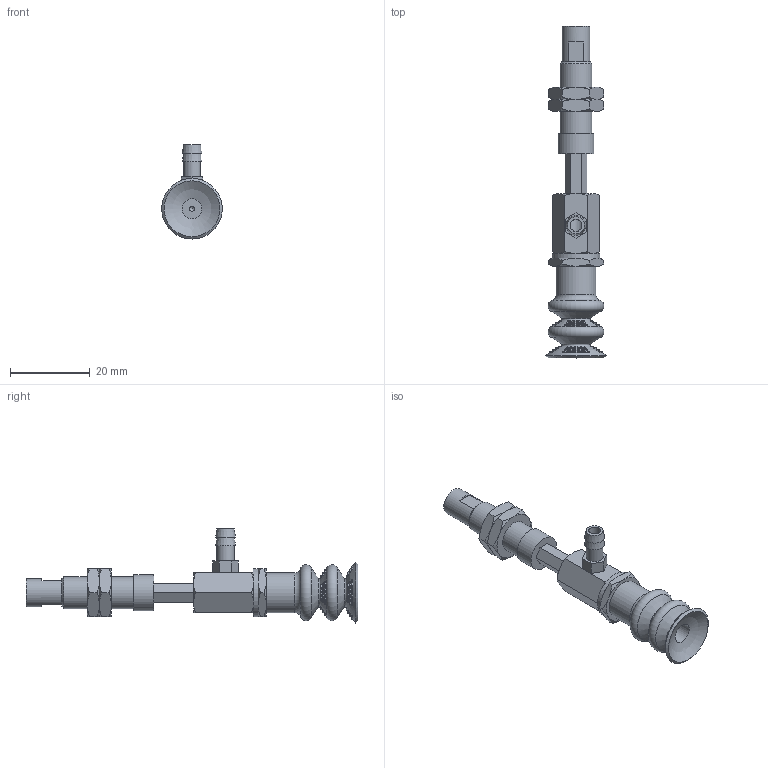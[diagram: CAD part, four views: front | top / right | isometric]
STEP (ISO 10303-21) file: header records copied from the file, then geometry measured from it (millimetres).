
FILE_DESCRIPTION(('STEP AP203'),'1');
FILE_NAME('-T.stp','2025-04-04T01:11:57',(' '),(' '),'Spatial InterOp 3D',' ',' ');
FILE_SCHEMA(('CONFIG_CONTROL_DESIGN'));
Length unit declared in the file: millimetre
Products named in the file (8): BNABPCYH-15-10-※-T; Adapter_napc-15-T; Connector_h-15-10; Nut napc_h-15-10; NAPCTH-15-10-FBODY; NAPCTH-15-10-MBODY; BPCG-15-※; T
Assembly tree (8 placements, depth 2):
  BNABPCYH-15-10-※-T
    Adapter_napc-15-T
    Connector_h-15-10
    Nut napc_h-15-10  x2
    NAPCTH-15-10-FBODY
    NAPCTH-15-10-MBODY
    BPCG-15-※
    T
Bounding box: 15.2 x 83.2 x 23.6 mm (x, y, z)
Volume: 5776.2 mm3; surface area: 6186.4 mm2
Topology: 8 solids, 8 shells, 265 faces, 765 edges, 493 vertices
Faces by surface type: plane 82, cone 71, sphere 58, torus 34, cylinder 20
Full cylindrical faces by diameter (mm): 1.25 x1, 3 x1, 4.134 x3, 4.3 x1, 5 x7, 7 x1, 7.188 x2, 8 x1, 9 x1, 10 x1, 12 x1
Entity records: 7581 total; most frequent: CARTESIAN_POINT 2063, DIRECTION 1106, ORIENTED_EDGE 952, AXIS2_PLACEMENT_3D 503, EDGE_CURVE 476, EDGE_LOOP 340, VERTEX_POINT 335, FACE_OUTER_BOUND 269
